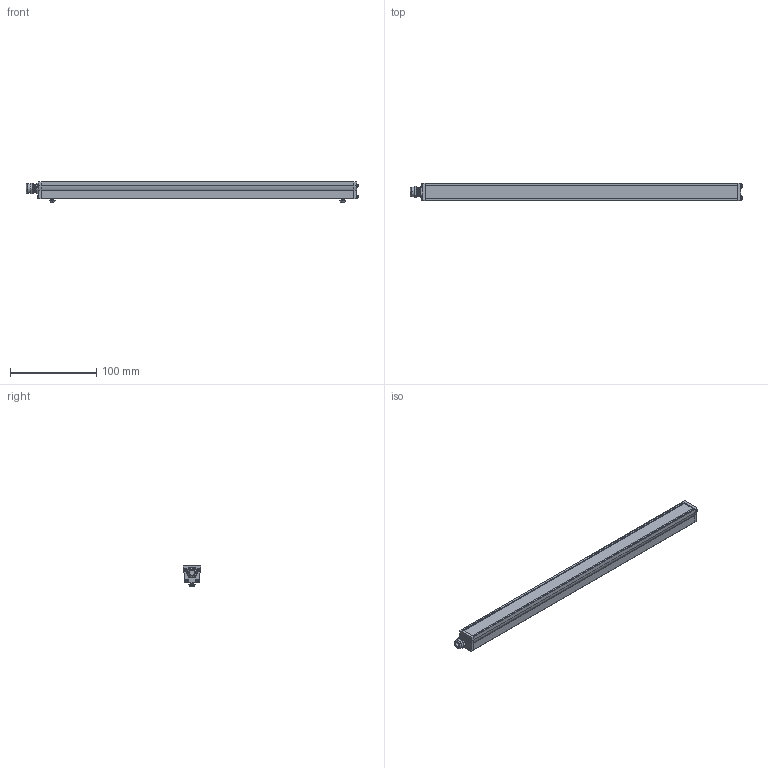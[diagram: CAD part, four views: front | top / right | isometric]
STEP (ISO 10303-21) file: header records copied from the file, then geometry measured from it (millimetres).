
FILE_DESCRIPTION (( 'STEP AP214' ), '1' );
FILE_NAME ('AL126 _NONSEALED__AL12614.stp', '2021-04-29T14:25:04', ( '' ), ( '' ), 'SwSTEP 2.0', 'SolidWorks 2018', '' );
FILE_SCHEMA (( 'AUTOMOTIVE_DESIGN' ));
Length unit declared in the file: inch
Products named in the file (15): 090877-XX_090877-14; BH-M4x6; 090889-XX_090889-14; 091064_Model_Dome Fittings_Thread Type and Size(Dome)_M10 x 1.5_Hazardous Location-Explosive Proof(ATEX and EExe Versions)_No_; 091052 (116 126); 10mm Ai; AL126 _NONSEALED__AL12614; 090876; 093469_093469; 10mm Label (116 126)_Default<As Machined>; HN-M4_90592A016; 093474_093474; 10mm Swish_Default<As Machined>; 090875; 10mm Advanced illumination
Assembly tree (24 placements, depth 3):
  AL126 _NONSEALED__AL12614
    090889-XX_090889-14
    090877-XX_090877-14
    090875
    090876
    093474_093474  x8
    093469_093469  x2
    091064_Model_Dome Fittings_Thread Type and Size(Dome)_M10 x 1.5_Hazardous Location-Explosive Proof(ATEX and EExe Versions)_No_
    HN-M4_90592A016  x2
    BH-M4x6  x2
    091052 (116 126)
      10mm Label (116 126)_Default<As Machined>
      10mm Ai
      10mm Swish_Default<As Machined>
      10mm Advanced illumination
Bounding box: 384.73 x 20.02 x 24.1 mm (x, y, z)
Volume: 52027.2 mm3; surface area: 74776.4 mm2
Topology: 48 solids, 48 shells, 1877 faces, 4840 edges, 3010 vertices
Faces by surface type: cylinder 934, plane 401, cone 362, bspline 120, torus 60
Entity records: 30293 total; most frequent: CARTESIAN_POINT 10456, ORIENTED_EDGE 4076, DIRECTION 3580, EDGE_CURVE 2038, VERTEX_POINT 1298, AXIS2_PLACEMENT_3D 1276, VECTOR 1028, LINE 1028
